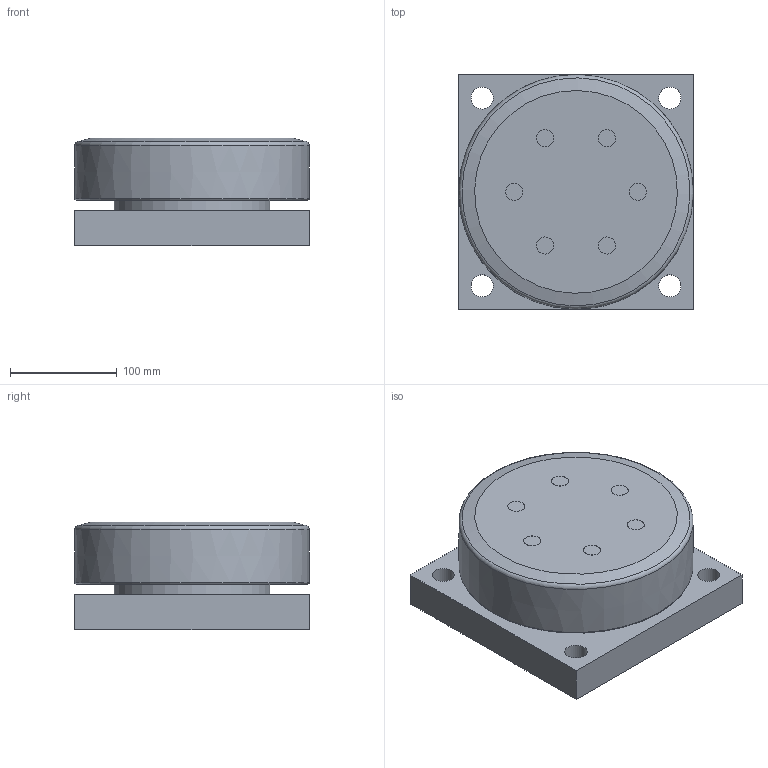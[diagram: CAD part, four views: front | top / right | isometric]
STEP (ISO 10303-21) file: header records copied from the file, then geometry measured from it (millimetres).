
FILE_DESCRIPTION((''),'2;1');
FILE_NAME('K:\Daten\KOMPONENTEN 2D + 3D\KOMPONENTEN Step-Files für extern\_ALFATEC_Mammutrollen und Profile\MR .0410\MR 220.0410_BQ1000.stp','2013-10-01T16:59:29',('hipp'),(''),'Autodesk Inventor 2013','Autodesk Inventor 2013','');
FILE_SCHEMA(('CONFIG_CONTROL_DESIGN'));
Length unit declared in the file: millimetre
Products named in the file (1): MR 220.0410_BQ1000_Shrinkwrap_1
Bounding box: 220 x 220 x 101.15 mm (x, y, z)
Volume: 3757441.4 mm3; surface area: 224935.9 mm2
Topology: 1 solids, 1 shells, 33 faces, 71 edges, 50 vertices
Faces by surface type: plane 16, cylinder 12, torus 2, cone 2, bspline 1
Full cylindrical faces by diameter (mm): 16 x6, 20.752 x4, 110 x1, 146 x1
Entity records: 857 total; most frequent: CARTESIAN_POINT 142, DIRECTION 140, ORIENTED_EDGE 86, EDGE_LOOP 68, AXIS2_PLACEMENT_3D 64, EDGE_CURVE 43, VERTEX_POINT 39, FACE_BOUND 35
